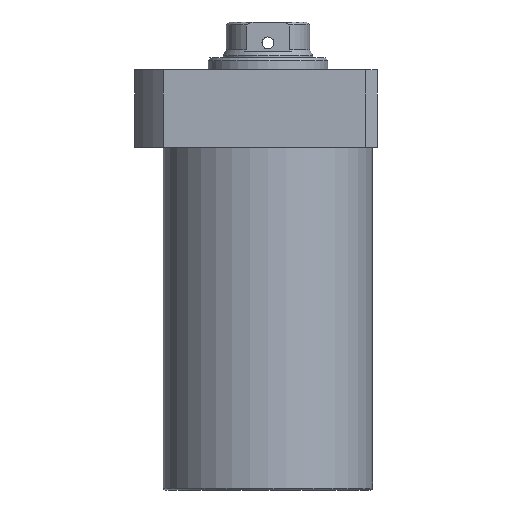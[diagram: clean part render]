
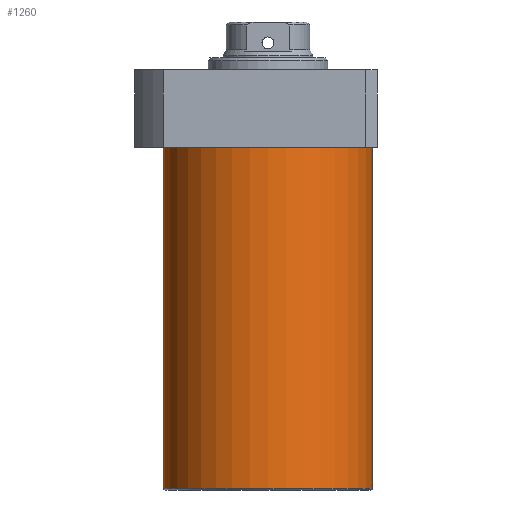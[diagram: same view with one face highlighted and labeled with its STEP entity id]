
A CAD part, front view. The second image highlights one B-rep face of the part: STEP entity #1260.
In plain terms, the highlighted cylindrical face has radius 52.5 mm (diameter 105 mm), a partial arc.
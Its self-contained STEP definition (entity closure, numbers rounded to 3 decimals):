
#2 = AXIS2_PLACEMENT_3D ( 'NONE', #1899, #506, #2065 ) ;
#21 = EDGE_CURVE ( 'NONE', #1786, #622, #172, .T. ) ;
#25 = CARTESIAN_POINT ( 'NONE',  ( -52.5, 0., -191.5 ) ) ;
#60 = DIRECTION ( 'NONE',  ( 1., 0., 0. ) ) ;
#62 = CARTESIAN_POINT ( 'NONE',  ( 52.5, 0., -191.5 ) ) ;
#72 = VECTOR ( 'NONE', #1751, 1000. ) ;
#172 = LINE ( 'NONE', #62, #443 ) ;
#230 = DIRECTION ( 'NONE',  ( 0., 0., 1. ) ) ;
#306 = EDGE_CURVE ( 'NONE', #622, #1523, #1280, .T. ) ;
#416 = CARTESIAN_POINT ( 'NONE',  ( 0., 0., -190.5 ) ) ;
#443 = VECTOR ( 'NONE', #1303, 1000. ) ;
#486 = AXIS2_PLACEMENT_3D ( 'NONE', #1438, #1586, #60 ) ;
#506 = DIRECTION ( 'NONE',  ( 0., 0., -1. ) ) ;
#566 = CARTESIAN_POINT ( 'NONE',  ( -52.5, 0., -190.5 ) ) ;
#575 = AXIS2_PLACEMENT_3D ( 'NONE', #416, #230, #593 ) ;
#585 = ORIENTED_EDGE ( 'NONE', *, *, #306, .T. ) ;
#593 = DIRECTION ( 'NONE',  ( -1., 0., 0. ) ) ;
#622 = VERTEX_POINT ( 'NONE', #2193 ) ;
#714 = ORIENTED_EDGE ( 'NONE', *, *, #895, .T. ) ;
#830 = ORIENTED_EDGE ( 'NONE', *, *, #1732, .F. ) ;
#867 = FACE_OUTER_BOUND ( 'NONE', #1609, .T. ) ;
#895 = EDGE_CURVE ( 'NONE', #2187, #1786, #1000, .T. ) ;
#949 = CYLINDRICAL_SURFACE ( 'NONE', #486, 52.5 ) ;
#1000 = CIRCLE ( 'NONE', #575, 52.5 ) ;
#1225 = CARTESIAN_POINT ( 'NONE',  ( 52.5, 0., -190.5 ) ) ;
#1227 = LINE ( 'NONE', #25, #72 ) ;
#1260 = ADVANCED_FACE ( 'NONE', ( #867 ), #949, .T. ) ;
#1280 = CIRCLE ( 'NONE', #2, 52.5 ) ;
#1303 = DIRECTION ( 'NONE',  ( 0., 0., 1. ) ) ;
#1438 = CARTESIAN_POINT ( 'NONE',  ( 0., 0., -191.5 ) ) ;
#1523 = VERTEX_POINT ( 'NONE', #1687 ) ;
#1586 = DIRECTION ( 'NONE',  ( 0., 0., 1. ) ) ;
#1609 = EDGE_LOOP ( 'NONE', ( #830, #714, #2128, #585 ) ) ;
#1687 = CARTESIAN_POINT ( 'NONE',  ( -52.5, 0., -19.5 ) ) ;
#1732 = EDGE_CURVE ( 'NONE', #2187, #1523, #1227, .T. ) ;
#1751 = DIRECTION ( 'NONE',  ( 0., 0., 1. ) ) ;
#1786 = VERTEX_POINT ( 'NONE', #1225 ) ;
#1899 = CARTESIAN_POINT ( 'NONE',  ( 0., 0., -19.5 ) ) ;
#2065 = DIRECTION ( 'NONE',  ( 1., 0., 0. ) ) ;
#2128 = ORIENTED_EDGE ( 'NONE', *, *, #21, .T. ) ;
#2187 = VERTEX_POINT ( 'NONE', #566 ) ;
#2193 = CARTESIAN_POINT ( 'NONE',  ( 52.5, 0., -19.5 ) ) ;
